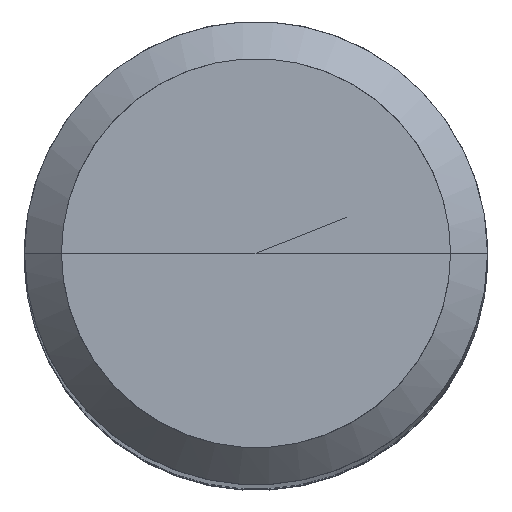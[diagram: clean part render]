
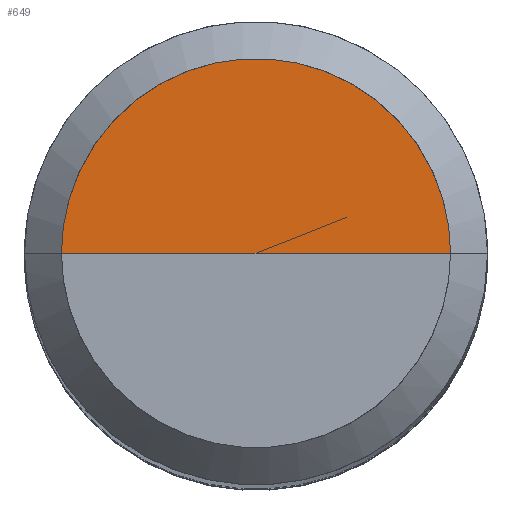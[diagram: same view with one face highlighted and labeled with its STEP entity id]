
A CAD part, top view. The second image highlights one B-rep face of the part: STEP entity #649.
In plain terms, the highlighted free-form (B-spline) face has degree [1, 2] with [2, 5] control points.
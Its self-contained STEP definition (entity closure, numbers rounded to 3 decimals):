
#361=CARTESIAN_POINT('',(8.4,0.0,96.268));
#362=CARTESIAN_POINT('',(8.4,8.4,96.268));
#363=CARTESIAN_POINT('',(0.0,8.4,96.268));
#364=CARTESIAN_POINT('',(-8.4,8.4,96.268));
#365=CARTESIAN_POINT('',(-8.4,0.0,96.268));
#366=CARTESIAN_POINT('',(0.0,0.0,96.268));
#634=(
BOUNDED_SURFACE()
B_SPLINE_SURFACE(1,2,(
(#361,#362,#363,#364,#365),
(#366,#366,#366,#366,#366)
), .UNSPECIFIED.,.F.,.F.,.F.)
B_SPLINE_SURFACE_WITH_KNOTS((2,2),(3,2,3),(
0.0,1.0),(
0.0,0.5,1.0), .UNSPECIFIED.)
GEOMETRIC_REPRESENTATION_ITEM()
RATIONAL_B_SPLINE_SURFACE(((1.0,0.707,1.0,0.707,1.0),
(1.0,0.707,1.0,0.707,1.0)
))
REPRESENTATION_ITEM('')
SURFACE()
);
#635=(
BOUNDED_CURVE()
B_SPLINE_CURVE(2,(#365,#364,#363,#362,#361),.UNSPECIFIED.,.F.,.F.)
B_SPLINE_CURVE_WITH_KNOTS((3,2,3),
(0.0,0.5,1.0),.UNSPECIFIED.)
CURVE()
GEOMETRIC_REPRESENTATION_ITEM()
RATIONAL_B_SPLINE_CURVE((1.0,0.707,1.0,0.707,1.0))
REPRESENTATION_ITEM('')
);
#636=(
BOUNDED_CURVE()
B_SPLINE_CURVE(1,(#361,#366),.UNSPECIFIED.,.F.,.F.)
B_SPLINE_CURVE_WITH_KNOTS((2,2),
(0.0,1.0),.UNSPECIFIED.)
CURVE()
GEOMETRIC_REPRESENTATION_ITEM()
RATIONAL_B_SPLINE_CURVE((1.0,1.0))
REPRESENTATION_ITEM('')
);
#637=(
BOUNDED_CURVE()
B_SPLINE_CURVE(1,(#366,#365),.UNSPECIFIED.,.F.,.F.)
B_SPLINE_CURVE_WITH_KNOTS((2,2),
(0.0,1.0),.UNSPECIFIED.)
CURVE()
GEOMETRIC_REPRESENTATION_ITEM()
RATIONAL_B_SPLINE_CURVE((1.0,1.0))
REPRESENTATION_ITEM('')
);
#638=VERTEX_POINT('',#361);
#639=VERTEX_POINT('',#365);
#640=VERTEX_POINT('',#366);
#641=EDGE_CURVE('',#639,#638,#635,.T.);
#642=EDGE_CURVE('',#638,#640,#636,.T.);
#643=EDGE_CURVE('',#640,#639,#637,.T.);
#644=ORIENTED_EDGE('',*,*,#641,.T.);
#645=ORIENTED_EDGE('',*,*,#642,.T.);
#646=ORIENTED_EDGE('',*,*,#643,.T.);
#647=EDGE_LOOP('',(#644,#645,#646));
#648=FACE_OUTER_BOUND('',#647,.T.);
#649=ADVANCED_FACE('',(#648),#634,.T.);
